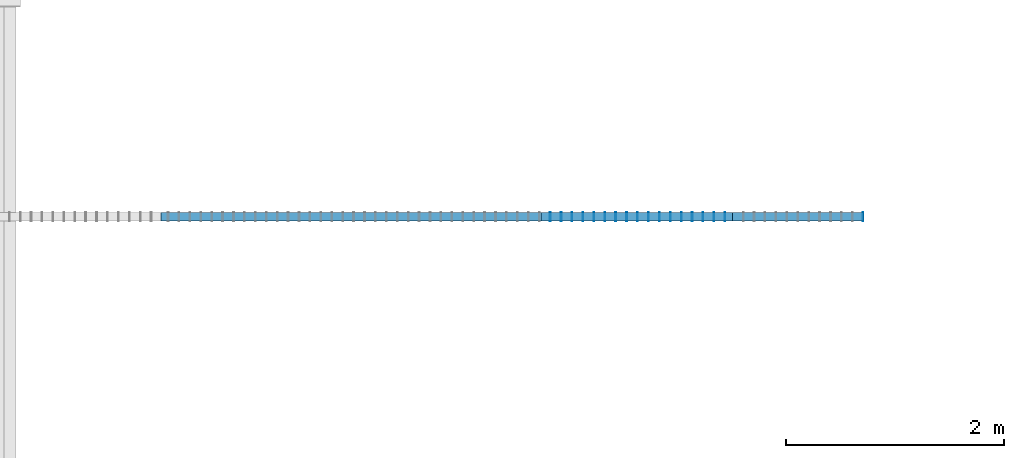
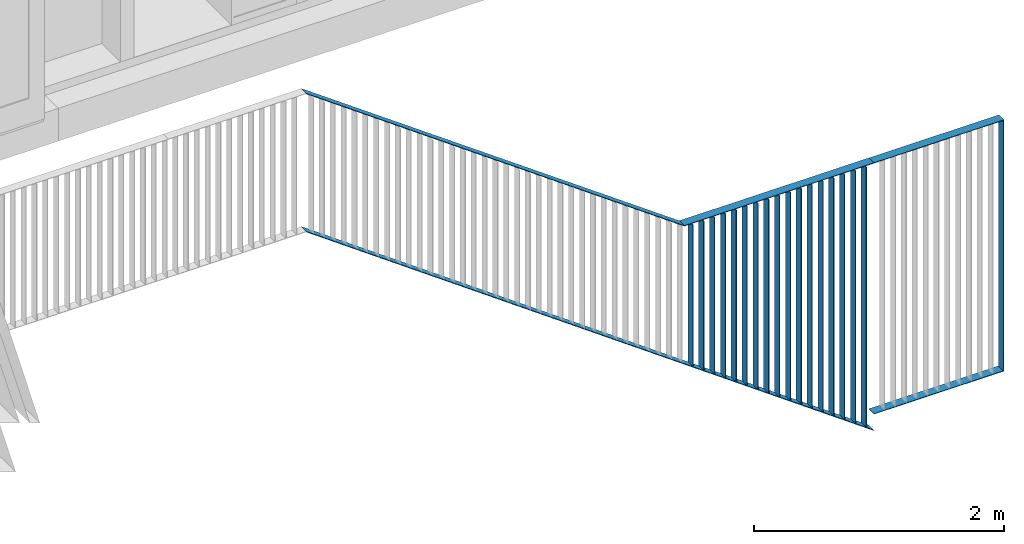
# One storey, part 17 of 260: 22 members, 1 element without a shape of its own.
"""IFC2X3 building model written with IfcOpenShell, lengths in millimetres."""

from ifc_helpers import new_model, entity, si_unit, converted_unit, derived_unit, money_unit, direction, frame, origin_with_axes, place, context, subcontext, project, spatial, faceted_brep, material, type_object, element, aggregate, save


model = new_model("IFC2X3")

# Units and contexts
model_context = context("Model", 3, precision=0.01, world=origin_with_axes(), true_north=direction((0.0, 1.0)))
plan_context = context("Plan", 3, precision=0.01, world=origin_with_axes(), true_north=direction((0.0, 1.0)))
body_context = subcontext(model_context, "Body", "Model", "MODEL_VIEW")
ifc_project = project(units=[si_unit("LENGTHUNIT", "METRE", prefix="MILLI"), si_unit("AREAUNIT", "SQUARE_METRE"), si_unit("VOLUMEUNIT", "CUBIC_METRE"), converted_unit("PLANEANGLEUNIT", "DEGREE", entity("IfcPlaneAngleMeasure", 0.0174532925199), si_unit("PLANEANGLEUNIT", "RADIAN"), dimensions=[0, 0, 0, 0, 0, 0, 0]), money_unit("EUR"), converted_unit("TIMEUNIT", "Year", entity("IfcTimeMeasure", 31556926.0), si_unit("TIMEUNIT", "SECOND"), dimensions=[0, 0, 1, 0, 0, 0, 0]), si_unit("MASSUNIT", "GRAM", prefix="KILO"), si_unit("THERMODYNAMICTEMPERATUREUNIT", "DEGREE_CELSIUS"), si_unit("LUMINOUSINTENSITYUNIT", "LUMEN"), si_unit("ENERGYUNIT", "JOULE", prefix="MEGA"), derived_unit("THERMALCONDUCTANCEUNIT", [(si_unit("POWERUNIT", "WATT"), 1), (si_unit("LENGTHUNIT", "METRE"), -1), (si_unit("THERMODYNAMICTEMPERATUREUNIT", "KELVIN"), -1)]), derived_unit("SPECIFICHEATCAPACITYUNIT", [(si_unit("ENERGYUNIT", "JOULE"), 1), (si_unit("MASSUNIT", "GRAM", prefix="KILO"), -1), (si_unit("THERMODYNAMICTEMPERATUREUNIT", "KELVIN"), -1)]), derived_unit("MASSDENSITYUNIT", [(si_unit("MASSUNIT", "GRAM", prefix="KILO"), 1), (si_unit("VOLUMEUNIT", "CUBIC_METRE"), -1)])], contexts=[model_context, plan_context])

# Site, building, storey
site_placement = place(None, origin_with_axes())
site = spatial("IfcSite", under=ifc_project, at=site_placement, Name="Site", CompositionType="ELEMENT")
building_placement = place(site_placement, origin_with_axes())
building = spatial("IfcBuilding", under=site, at=building_placement, Name="Naam gebouw", CompositionType="ELEMENT")
storey_placement = place(building_placement, frame((0.0, 0.0, 3960.0), z_axis=(0.0, 0.0, 1.0), x_axis=(1.0, 0.0, 0.0)))
storey = spatial("IfcBuildingStorey", under=building, at=storey_placement, Name="verdieping", CompositionType="ELEMENT", Elevation=3960.0)

# Railing, members
railing_type = type_object("IfcRailingType", Name="Railing Type", PredefinedType="NOTDEFINED")
railing_placement = place(storey_placement, frame((45003.0750126, 9730.00004155, -3819.75532512), z_axis=(0.0, 0.0, 1.0), x_axis=(1.0, 0.0, 0.0)))
railing = element("IfcRailing", 1, at=railing_placement, inside=storey, type_object=railing_type, Name="_Reling-x", PredefinedType="NOTDEFINED")
ifc_material_1 = material(Name="Metaal - Aluminium")
member_type_1 = type_object("IfcMemberType", Name="IfcMember", PredefinedType="USERDEFINED")
member_1_placement = place(railing_placement, origin_with_axes())
member_1 = element("IfcMember", 2, at=member_1_placement, type_object=member_type_1, material=ifc_material_1, Name="_", context=body_context, shape_type="Brep", body=[
    faceted_brep([(9771.92489541, 234.99995783, 2259.75532512), (9765.92489541, 234.99995783, 2253.75532512), (9765.92489541, 234.99995783, -190.0), (9771.92489541, 234.99995783, -190.0), (9771.92489541, 314.99995783, 2259.75532512), (9765.92489541, 314.99995783, 2253.75532512), (9765.92489541, 314.99995783, -190.0), (9771.92489541, 314.99995783, -190.0)], [[[0, 1, 2, 3]], [[0, 4, 5, 1]], [[1, 5, 6, 2]], [[3, 2, 6, 7]], [[4, 0, 3, 7]], [[5, 4, 7, 6]]]),
])
member_2_placement = place(railing_placement, frame((5954.03925297, 274.999958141, 2219.30782828), z_axis=(0.0, 0.0, 1.0), x_axis=(1.0, 0.0, 0.0)))
member_2 = element("IfcMember", 3, at=member_2_placement, type_object=member_type_1, material=ifc_material_1, Name="_", context=body_context, shape_type="Brep", body=[
    faceted_brep([(-2617.88564245, -39.9999996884, 2550.44749684), (-2619.82092365, -39.9999996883, 2544.44749684), (866.290187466, -40.0000001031, 34.4474968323), (2617.88564244, -40.0000003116, 34.447496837), (2617.88564244, -40.0000003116, 40.447496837), (868.225468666, -40.0000001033, 40.4474968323), (-2617.88564244, 40.0000003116, 2550.44749684), (-2619.82092365, 40.0000003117, 2544.44749684), (866.290187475, 39.9999998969, 34.4474968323), (2617.88564245, 39.9999996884, 34.447496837), (2617.88564245, 39.9999996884, 40.447496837), (868.225468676, 39.9999998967, 40.4474968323)], [[[0, 1, 2, 3, 4, 5]], [[0, 6, 7, 1]], [[1, 7, 8, 2]], [[2, 8, 9, 3]], [[4, 3, 9, 10]], [[11, 5, 4, 10]], [[6, 0, 5, 11]], [[7, 6, 11, 10, 9, 8]]]),
])
ifc_material_2 = material(Name="Metaal - RVS")
member_3_placement = place(railing_placement, frame((5954.03925297, 274.999958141, -390.11234224), z_axis=(0.0, 0.0, 1.0), x_axis=(1.0, 0.0, 0.0)))
member_3 = element("IfcMember", 4, at=member_3_placement, type_object=member_type_1, material=ifc_material_2, Name="_Regel-x", context=body_context, shape_type="Brep", body=[
    faceted_brep([(-2616.91800185, -39.9999996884, 3812.86766736), (-2618.85328305, -39.9999996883, 3806.86766736), (866.472554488, -40.0000001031, 1297.43306433), (2616.13272826, -40.0000003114, 37.6777392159), (2619.63855662, -40.0000003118, 42.5469452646), (869.978382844, -40.0000001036, 1302.30227038), (-2616.91800184, 40.0000003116, 3812.86766736), (-2618.85328305, 40.0000003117, 3806.86766736), (866.472554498, 39.9999998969, 1297.43306433), (2616.13272827, 39.9999996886, 37.6777392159), (2619.63855663, 39.9999996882, 42.5469452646), (869.978382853, 39.9999998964, 1302.30227038)], [[[0, 1, 2, 3, 4, 5]], [[0, 6, 7, 1]], [[1, 7, 8, 9, 3, 2]], [[4, 3, 9, 10]], [[6, 0, 5, 4, 10, 11]], [[7, 6, 11, 10, 9, 8]]]),
])
member_4_placement = place(railing_placement, frame((9171.92489541, 274.99995783, 2219.30782829), z_axis=(0.0, 0.0, 1.0), x_axis=(1.0, 0.0, 0.0)))
member_4 = element("IfcMember", 5, at=member_4_placement, type_object=member_type_1, material=ifc_material_1, Name="_", context=body_context, shape_type="Brep", body=[
    faceted_brep([(-600.000000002, -40.0, 40.4474968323), (-600.000000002, -40.0, 34.4474968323), (594.0, -40.0, 34.4474968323), (600.0, -40.0, 40.4474968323), (-599.999999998, 40.0, 40.4474968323), (-599.999999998, 40.0, 34.4474968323), (594.0, 40.0, 34.4474968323), (600.0, 40.0, 40.4474968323)], [[[0, 1, 2, 3]], [[0, 4, 5, 1]], [[1, 5, 6, 2]], [[3, 2, 6, 7]], [[4, 0, 3, 7]], [[5, 4, 7, 6]]]),
])
member_5_placement = place(railing_placement, frame((9171.92489541, 274.99995783, -230.11234224), z_axis=(0.0, 0.0, 1.0), x_axis=(1.0, 0.0, 0.0)))
member_5 = element("IfcMember", 6, at=member_5_placement, type_object=member_type_1, material=ifc_material_2, Name="_Regel-x", context=body_context, shape_type="Brep", body=[
    faceted_brep([(-600.0, -40.0, 43.1123422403), (-600.0, -40.0, 37.1123422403), (600.0, -40.0, 37.1123422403), (600.0, -40.0, 43.1123422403), (-600.0, 40.0, 43.1123422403), (-600.0, 40.0, 37.1123422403), (600.0, 40.0, 37.1123422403), (600.0, 40.0, 43.1123422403)], [[[0, 1, 2, 3]], [[0, 4, 5, 1]], [[1, 5, 6, 2]], [[3, 2, 6, 7]], [[4, 0, 3, 7]], [[5, 4, 7, 6]]]),
])
member_type_2 = type_object("IfcMemberType", Name="IfcMember", PredefinedType="MEMBER")
member_6_placement = place(railing_placement, frame((6904.03925297, 274.999958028, 850.877662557), z_axis=(0.0, 0.0, 1.0), x_axis=(1.0, 0.0, 0.0)))
member_6 = element("IfcMember", 7, at=member_6_placement, type_object=member_type_2, material=ifc_material_2, Name="_Spijlen-x", ObjectType="MEMBER", context=body_context, shape_type="Brep", body=[
    faceted_brep([(2.99999999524, -40.0000000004, -2.15999999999), (3.00000000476, 39.9999999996, -2.15999999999), (3.00000000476, 39.9999999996, 1389.54614163), (2.99999999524, -40.0000000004, 1389.54614163), (-3.00000000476, -39.9999999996, 2.15999999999), (-2.99999999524, 40.0000000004, 2.15999999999), (-2.99999999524, 40.0000000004, 1389.54614163), (-3.00000000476, -39.9999999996, 1389.54614163)], [[[0, 1, 2, 3]], [[0, 4, 5, 1]], [[1, 5, 6, 2]], [[3, 2, 6, 7]], [[4, 0, 3, 7]], [[5, 4, 7, 6]]]),
])
member_7_placement = place(railing_placement, frame((7004.03925297, 274.999958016, 778.877662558), z_axis=(0.0, 0.0, 1.0), x_axis=(1.0, 0.0, 0.0)))
member_7 = element("IfcMember", 8, at=member_7_placement, type_object=member_type_2, material=ifc_material_2, Name="_Spijlen-x", ObjectType="MEMBER", context=body_context, shape_type="Brep", body=[
    faceted_brep([(2.99999999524, -40.0000000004, -2.15999999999), (3.00000000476, 39.9999999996, -2.15999999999), (3.00000000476, 39.9999999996, 1461.54614163), (2.99999999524, -40.0000000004, 1461.54614163), (-3.00000000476, -39.9999999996, 2.15999999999), (-2.99999999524, 40.0000000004, 2.15999999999), (-2.99999999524, 40.0000000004, 1461.54614163), (-3.00000000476, -39.9999999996, 1461.54614163)], [[[0, 1, 2, 3]], [[0, 4, 5, 1]], [[1, 5, 6, 2]], [[3, 2, 6, 7]], [[4, 0, 3, 7]], [[5, 4, 7, 6]]]),
])
member_8_placement = place(railing_placement, frame((7104.03925297, 274.999958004, 706.877662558), z_axis=(0.0, 0.0, 1.0), x_axis=(1.0, 0.0, 0.0)))
member_8 = element("IfcMember", 9, at=member_8_placement, type_object=member_type_2, material=ifc_material_2, Name="_Spijlen-x", ObjectType="MEMBER", context=body_context, shape_type="Brep", body=[
    faceted_brep([(2.99999999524, -40.0000000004, -2.15999999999), (3.00000000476, 39.9999999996, -2.15999999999), (3.00000000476, 39.9999999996, 1533.54614163), (2.99999999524, -40.0000000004, 1533.54614163), (-3.00000000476, -39.9999999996, 2.15999999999), (-2.99999999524, 40.0000000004, 2.15999999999), (-2.99999999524, 40.0000000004, 1533.54614163), (-3.00000000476, -39.9999999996, 1533.54614163)], [[[0, 1, 2, 3]], [[0, 4, 5, 1]], [[1, 5, 6, 2]], [[3, 2, 6, 7]], [[4, 0, 3, 7]], [[5, 4, 7, 6]]]),
])
member_9_placement = place(railing_placement, frame((7204.03925297, 274.999957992, 634.877662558), z_axis=(0.0, 0.0, 1.0), x_axis=(1.0, 0.0, 0.0)))
member_9 = element("IfcMember", 10, at=member_9_placement, type_object=member_type_2, material=ifc_material_2, Name="_Spijlen-x", ObjectType="MEMBER", context=body_context, shape_type="Brep", body=[
    faceted_brep([(2.99999999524, -40.0000000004, -2.15999999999), (3.00000000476, 39.9999999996, -2.15999999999), (3.00000000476, 39.9999999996, 1605.54614163), (2.99999999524, -40.0000000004, 1605.54614163), (-3.00000000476, -39.9999999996, 2.15999999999), (-2.99999999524, 40.0000000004, 2.15999999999), (-2.99999999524, 40.0000000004, 1605.54614163), (-3.00000000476, -39.9999999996, 1605.54614163)], [[[0, 1, 2, 3]], [[0, 4, 5, 1]], [[1, 5, 6, 2]], [[3, 2, 6, 7]], [[4, 0, 3, 7]], [[5, 4, 7, 6]]]),
])
member_10_placement = place(railing_placement, frame((7304.03925297, 274.999957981, 562.877662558), z_axis=(0.0, 0.0, 1.0), x_axis=(1.0, 0.0, 0.0)))
member_10 = element("IfcMember", 11, at=member_10_placement, type_object=member_type_2, material=ifc_material_2, Name="_Spijlen-x", ObjectType="MEMBER", context=body_context, shape_type="Brep", body=[
    faceted_brep([(2.99999999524, -40.0000000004, -2.15999999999), (3.00000000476, 39.9999999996, -2.15999999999), (3.00000000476, 39.9999999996, 1677.54614163), (2.99999999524, -40.0000000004, 1677.54614163), (-3.00000000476, -39.9999999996, 2.15999999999), (-2.99999999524, 40.0000000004, 2.15999999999), (-2.99999999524, 40.0000000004, 1677.54614163), (-3.00000000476, -39.9999999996, 1677.54614163)], [[[0, 1, 2, 3]], [[0, 4, 5, 1]], [[1, 5, 6, 2]], [[3, 2, 6, 7]], [[4, 0, 3, 7]], [[5, 4, 7, 6]]]),
])
member_11_placement = place(railing_placement, frame((7404.03925297, 274.999957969, 490.877662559), z_axis=(0.0, 0.0, 1.0), x_axis=(1.0, 0.0, 0.0)))
member_11 = element("IfcMember", 12, at=member_11_placement, type_object=member_type_2, material=ifc_material_2, Name="_Spijlen-x", ObjectType="MEMBER", context=body_context, shape_type="Brep", body=[
    faceted_brep([(2.99999999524, -40.0000000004, -2.15999999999), (3.00000000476, 39.9999999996, -2.15999999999), (3.00000000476, 39.9999999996, 1749.54614163), (2.99999999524, -40.0000000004, 1749.54614163), (-3.00000000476, -39.9999999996, 2.15999999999), (-2.99999999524, 40.0000000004, 2.15999999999), (-2.99999999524, 40.0000000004, 1749.54614163), (-3.00000000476, -39.9999999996, 1749.54614163)], [[[0, 1, 2, 3]], [[0, 4, 5, 1]], [[1, 5, 6, 2]], [[3, 2, 6, 7]], [[4, 0, 3, 7]], [[5, 4, 7, 6]]]),
])
member_12_placement = place(railing_placement, frame((7504.03925297, 274.999957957, 418.877662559), z_axis=(0.0, 0.0, 1.0), x_axis=(1.0, 0.0, 0.0)))
member_12 = element("IfcMember", 13, at=member_12_placement, type_object=member_type_2, material=ifc_material_2, Name="_Spijlen-x", ObjectType="MEMBER", context=body_context, shape_type="Brep", body=[
    faceted_brep([(2.99999999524, -40.0000000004, -2.15999999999), (3.00000000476, 39.9999999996, -2.15999999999), (3.00000000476, 39.9999999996, 1821.54614163), (2.99999999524, -40.0000000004, 1821.54614163), (-3.00000000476, -39.9999999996, 2.15999999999), (-2.99999999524, 40.0000000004, 2.15999999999), (-2.99999999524, 40.0000000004, 1821.54614163), (-3.00000000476, -39.9999999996, 1821.54614163)], [[[0, 1, 2, 3]], [[0, 4, 5, 1]], [[1, 5, 6, 2]], [[3, 2, 6, 7]], [[4, 0, 3, 7]], [[5, 4, 7, 6]]]),
])
member_13_placement = place(railing_placement, frame((7604.03925297, 274.999957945, 346.877662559), z_axis=(0.0, 0.0, 1.0), x_axis=(1.0, 0.0, 0.0)))
member_13 = element("IfcMember", 14, at=member_13_placement, type_object=member_type_2, material=ifc_material_2, Name="_Spijlen-x", ObjectType="MEMBER", context=body_context, shape_type="Brep", body=[
    faceted_brep([(2.99999999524, -40.0000000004, -2.15999999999), (3.00000000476, 39.9999999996, -2.15999999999), (3.00000000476, 39.9999999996, 1893.54614163), (2.99999999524, -40.0000000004, 1893.54614163), (-3.00000000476, -39.9999999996, 2.15999999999), (-2.99999999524, 40.0000000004, 2.15999999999), (-2.99999999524, 40.0000000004, 1893.54614163), (-3.00000000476, -39.9999999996, 1893.54614163)], [[[0, 1, 2, 3]], [[0, 4, 5, 1]], [[1, 5, 6, 2]], [[3, 2, 6, 7]], [[4, 0, 3, 7]], [[5, 4, 7, 6]]]),
])
member_14_placement = place(railing_placement, frame((7704.03925297, 274.999957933, 274.877662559), z_axis=(0.0, 0.0, 1.0), x_axis=(1.0, 0.0, 0.0)))
member_14 = element("IfcMember", 15, at=member_14_placement, type_object=member_type_2, material=ifc_material_2, Name="_Spijlen-x", ObjectType="MEMBER", context=body_context, shape_type="Brep", body=[
    faceted_brep([(2.99999999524, -40.0000000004, -2.15999999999), (3.00000000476, 39.9999999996, -2.15999999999), (3.00000000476, 39.9999999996, 1965.54614163), (2.99999999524, -40.0000000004, 1965.54614163), (-3.00000000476, -39.9999999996, 2.15999999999), (-2.99999999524, 40.0000000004, 2.15999999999), (-2.99999999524, 40.0000000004, 1965.54614163), (-3.00000000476, -39.9999999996, 1965.54614163)], [[[0, 1, 2, 3]], [[0, 4, 5, 1]], [[1, 5, 6, 2]], [[3, 2, 6, 7]], [[4, 0, 3, 7]], [[5, 4, 7, 6]]]),
])
member_15_placement = place(railing_placement, frame((7804.03925297, 274.999957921, 202.87766256), z_axis=(0.0, 0.0, 1.0), x_axis=(1.0, 0.0, 0.0)))
member_15 = element("IfcMember", 16, at=member_15_placement, type_object=member_type_2, material=ifc_material_2, Name="_Spijlen-x", ObjectType="MEMBER", context=body_context, shape_type="Brep", body=[
    faceted_brep([(2.99999999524, -40.0000000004, -2.15999999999), (3.00000000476, 39.9999999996, -2.15999999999), (3.00000000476, 39.9999999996, 2037.54614163), (2.99999999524, -40.0000000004, 2037.54614163), (-3.00000000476, -39.9999999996, 2.15999999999), (-2.99999999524, 40.0000000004, 2.15999999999), (-2.99999999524, 40.0000000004, 2037.54614163), (-3.00000000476, -39.9999999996, 2037.54614163)], [[[0, 1, 2, 3]], [[0, 4, 5, 1]], [[1, 5, 6, 2]], [[3, 2, 6, 7]], [[4, 0, 3, 7]], [[5, 4, 7, 6]]]),
])
member_16_placement = place(railing_placement, frame((7904.03925297, 274.999957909, 130.87766256), z_axis=(0.0, 0.0, 1.0), x_axis=(1.0, 0.0, 0.0)))
member_16 = element("IfcMember", 17, at=member_16_placement, type_object=member_type_2, material=ifc_material_2, Name="_Spijlen-x", ObjectType="MEMBER", context=body_context, shape_type="Brep", body=[
    faceted_brep([(2.99999999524, -40.0000000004, -2.15999999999), (3.00000000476, 39.9999999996, -2.15999999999), (3.00000000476, 39.9999999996, 2109.54614163), (2.99999999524, -40.0000000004, 2109.54614163), (-3.00000000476, -39.9999999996, 2.15999999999), (-2.99999999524, 40.0000000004, 2.15999999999), (-2.99999999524, 40.0000000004, 2109.54614163), (-3.00000000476, -39.9999999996, 2109.54614163)], [[[0, 1, 2, 3]], [[0, 4, 5, 1]], [[1, 5, 6, 2]], [[3, 2, 6, 7]], [[4, 0, 3, 7]], [[5, 4, 7, 6]]]),
])
member_17_placement = place(railing_placement, frame((8004.03925297, 274.999957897, 58.8776625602), z_axis=(0.0, 0.0, 1.0), x_axis=(1.0, 0.0, 0.0)))
member_17 = element("IfcMember", 18, at=member_17_placement, type_object=member_type_2, material=ifc_material_2, Name="_Spijlen-x", ObjectType="MEMBER", context=body_context, shape_type="Brep", body=[
    faceted_brep([(2.99999999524, -40.0000000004, -2.15999999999), (3.00000000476, 39.9999999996, -2.15999999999), (3.00000000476, 39.9999999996, 2181.54614163), (2.99999999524, -40.0000000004, 2181.54614163), (-3.00000000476, -39.9999999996, 2.15999999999), (-2.99999999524, 40.0000000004, 2.15999999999), (-2.99999999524, 40.0000000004, 2181.54614163), (-3.00000000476, -39.9999999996, 2181.54614163)], [[[0, 1, 2, 3]], [[0, 4, 5, 1]], [[1, 5, 6, 2]], [[3, 2, 6, 7]], [[4, 0, 3, 7]], [[5, 4, 7, 6]]]),
])
member_18_placement = place(railing_placement, frame((8104.03925297, 274.999957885, -13.1223374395), z_axis=(0.0, 0.0, 1.0), x_axis=(1.0, 0.0, 0.0)))
member_18 = element("IfcMember", 19, at=member_18_placement, type_object=member_type_2, material=ifc_material_2, Name="_Spijlen-x", ObjectType="MEMBER", context=body_context, shape_type="Brep", body=[
    faceted_brep([(2.99999999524, -40.0000000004, -2.15999999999), (3.00000000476, 39.9999999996, -2.15999999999), (3.00000000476, 39.9999999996, 2253.54614163), (2.99999999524, -40.0000000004, 2253.54614163), (-3.00000000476, -39.9999999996, 2.15999999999), (-2.99999999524, 40.0000000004, 2.15999999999), (-2.99999999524, 40.0000000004, 2253.54614163), (-3.00000000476, -39.9999999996, 2253.54614163)], [[[0, 1, 2, 3]], [[0, 4, 5, 1]], [[1, 5, 6, 2]], [[3, 2, 6, 7]], [[4, 0, 3, 7]], [[5, 4, 7, 6]]]),
])
member_19_placement = place(railing_placement, frame((8204.03925297, 274.999957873, -85.1223374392), z_axis=(0.0, 0.0, 1.0), x_axis=(1.0, 0.0, 0.0)))
member_19 = element("IfcMember", 20, at=member_19_placement, type_object=member_type_2, material=ifc_material_2, Name="_Spijlen-x", ObjectType="MEMBER", context=body_context, shape_type="Brep", body=[
    faceted_brep([(2.99999999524, -40.0000000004, -2.15999999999), (3.00000000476, 39.9999999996, -2.15999999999), (3.00000000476, 39.9999999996, 2325.54614163), (2.99999999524, -40.0000000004, 2325.54614163), (-3.00000000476, -39.9999999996, 2.15999999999), (-2.99999999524, 40.0000000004, 2.15999999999), (-2.99999999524, 40.0000000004, 2325.54614163), (-3.00000000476, -39.9999999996, 2325.54614163)], [[[0, 1, 2, 3]], [[0, 4, 5, 1]], [[1, 5, 6, 2]], [[3, 2, 6, 7]], [[4, 0, 3, 7]], [[5, 4, 7, 6]]]),
])
member_20_placement = place(railing_placement, frame((8304.03925297, 274.999957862, -157.122337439), z_axis=(0.0, 0.0, 1.0), x_axis=(1.0, 0.0, 0.0)))
member_20 = element("IfcMember", 21, at=member_20_placement, type_object=member_type_2, material=ifc_material_2, Name="_Spijlen-x", ObjectType="MEMBER", context=body_context, shape_type="Brep", body=[
    faceted_brep([(2.99999999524, -40.0000000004, -2.15999999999), (3.00000000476, 39.9999999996, -2.15999999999), (3.00000000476, 39.9999999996, 2397.54614163), (2.99999999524, -40.0000000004, 2397.54614163), (-3.00000000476, -39.9999999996, 2.15999999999), (-2.99999999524, 40.0000000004, 2.15999999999), (-2.99999999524, 40.0000000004, 2397.54614163), (-3.00000000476, -39.9999999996, 2397.54614163)], [[[0, 1, 2, 3]], [[0, 4, 5, 1]], [[1, 5, 6, 2]], [[3, 2, 6, 7]], [[4, 0, 3, 7]], [[5, 4, 7, 6]]]),
])
member_21_placement = place(railing_placement, frame((8404.03925297, 274.99995785, -229.122337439), z_axis=(0.0, 0.0, 1.0), x_axis=(1.0, 0.0, 0.0)))
member_21 = element("IfcMember", 22, at=member_21_placement, type_object=member_type_2, material=ifc_material_2, Name="_Spijlen-x", ObjectType="MEMBER", context=body_context, shape_type="Brep", body=[
    faceted_brep([(2.99999999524, -40.0000000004, -2.15999999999), (3.00000000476, 39.9999999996, -2.15999999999), (3.00000000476, 39.9999999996, 2469.54614163), (2.99999999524, -40.0000000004, 2469.54614163), (-3.00000000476, -39.9999999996, 2.15999999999), (-2.99999999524, 40.0000000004, 2.15999999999), (-2.99999999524, 40.0000000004, 2469.54614163), (-3.00000000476, -39.9999999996, 2469.54614163)], [[[0, 1, 2, 3]], [[0, 4, 5, 1]], [[1, 5, 6, 2]], [[3, 2, 6, 7]], [[4, 0, 3, 7]], [[5, 4, 7, 6]]]),
])
member_22_placement = place(railing_placement, frame((8504.03925297, 274.999957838, -301.122337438), z_axis=(0.0, 0.0, 1.0), x_axis=(1.0, 0.0, 0.0)))
member_22 = element("IfcMember", 23, at=member_22_placement, type_object=member_type_2, material=ifc_material_2, Name="_Spijlen-x", ObjectType="MEMBER", context=body_context, shape_type="Brep", body=[
    faceted_brep([(2.99999999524, -40.0000000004, -2.15999999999), (3.00000000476, 39.9999999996, -2.15999999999), (3.00000000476, 39.9999999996, 2541.54614163), (2.99999999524, -40.0000000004, 2541.54614163), (-3.00000000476, -39.9999999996, 2.15999999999), (-2.99999999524, 40.0000000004, 2.15999999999), (-2.99999999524, 40.0000000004, 2541.54614163), (-3.00000000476, -39.9999999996, 2541.54614163)], [[[0, 1, 2, 3]], [[0, 4, 5, 1]], [[1, 5, 6, 2]], [[3, 2, 6, 7]], [[4, 0, 3, 7]], [[5, 4, 7, 6]]]),
])
aggregate(railing, [member_1, member_2, member_3, member_6, member_7, member_8, member_9, member_10, member_11, member_12, member_13, member_14, member_15, member_16, member_17, member_18, member_19, member_20, member_21, member_22, member_4, member_5])

save(model, "model.ifc")
